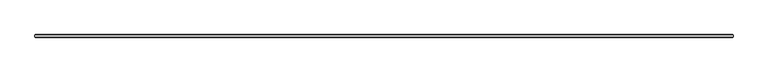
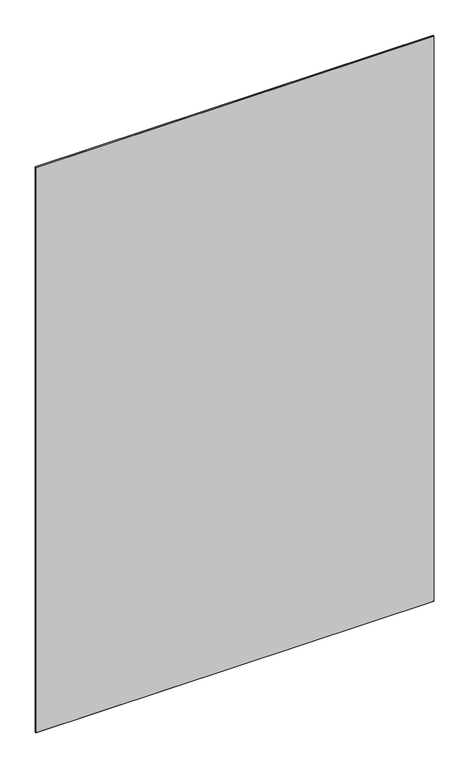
"""IFC4 building model written with IfcOpenShell, lengths in millimetres: plate geometry, 1-AMG-1-Панель одинарный витраж 8, 10 : Смещение 32 Толщина 8mm."""

from ifc_helpers import new_model, si_unit, origin, place, context, project, spatial, faceted_brep, source, transform, mapped, element, save


def plate_3ee4ef7e(model_context):
    return source(origin(), model_context, "Body", "Brep", [
        faceted_brep([(916.0011719, 29.5038347, 2751.0), (916.0011719, 34.4961653, 2751.0), (-921.0011719, 34.4961653, 2751.0), (-921.0011719, 29.5038347, 2751.0), (916.0011719, 34.4961653, -7.0), (916.0011719, 29.5038347, -7.0), (-921.0011719, 29.5038347, -7.0), (-921.0011719, 34.4961653, -7.0), (-919.4973372, 36.0, 2749.4961653), (914.4973372, 36.0, 2749.4961653), (914.4973372, 36.0, -5.5039422), (-919.4973372, 36.0, -5.5039422), (914.4973372, 28.0, 2749.4961653), (-919.4973372, 28.0, 2749.4961653), (-919.4973372, 28.0, -5.4961653), (914.4973372, 28.0, -5.4961653)], [[[0, 1, 2, 3]], [[4, 5, 6, 7]], [[8, 9, 10, 11]], [[3, 2, 7, 6]], [[12, 13, 14, 15]], [[1, 0, 5, 4]], [[1, 4, 10, 9]], [[5, 0, 12, 15]], [[7, 2, 8, 11]], [[3, 6, 14, 13]], [[0, 3, 13, 12]], [[2, 1, 9, 8]], [[6, 5, 15, 14]], [[4, 7, 11, 10]]]),
    ])


if __name__ == "__main__":
    model = new_model("IFC4")
    model_context = context("Model", 3, world=origin())
    ifc_project = project(units=[si_unit("LENGTHUNIT", "METRE", prefix="MILLI")], contexts=[model_context])
    site = spatial("IfcSite", under=ifc_project)
    building = spatial("IfcBuilding", under=site)
    placement = place(None, origin())
    plate_shape = plate_3ee4ef7e(model_context)
    element("IfcPlate", 1, ObjectType="1-AMG-1-Панель одинарный витраж 8, 10 : Смещение 32 Толщина 8mm", at=placement, inside=building, context=model_context, shape_type="MappedRepresentation", body=[
        mapped(plate_shape, transform((0.0, 0.0, 0.0), x_axis=(1.0, 0.0, 0.0), y_axis=(0.0, 1.0, 0.0), z_axis=(0.0, 0.0, 1.0))),
    ])
    save(model, "model.ifc")
